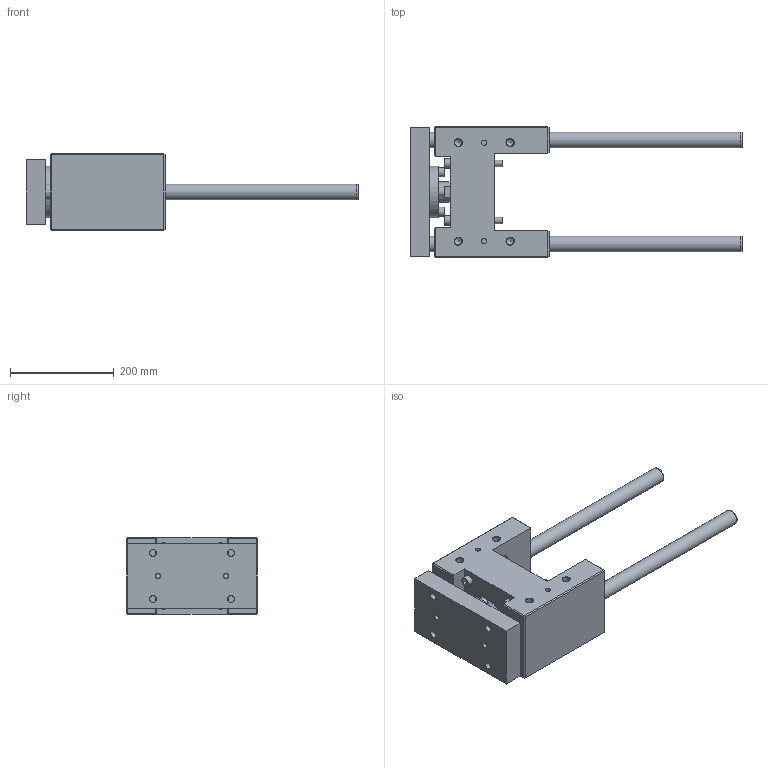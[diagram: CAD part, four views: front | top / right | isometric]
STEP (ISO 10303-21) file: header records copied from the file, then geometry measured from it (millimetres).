
FILE_DESCRIPTION( ( 'STEP AP214' ), '1' );
FILE_NAME( 'U:/Etudes/Top Solid/BIBLIO 3D AVM/TOP/PNEUMATIQUE/GUIDAGES/Type 32 (en H)/R_Renforcée/320R6_30.step', '2005-05-27T08:41:33', ( ' ' ), ( ' ' ), 'XStep 1.0', ' ', ' ' );
FILE_SCHEMA( ( 'automotive_design' ) );
Length unit declared in the file: metre
Products named in the file (2): 1; 2
Bounding box: 640 x 252 x 148 mm (x, y, z)
Volume: 6798234.7 mm3; surface area: 577450.8 mm2
Topology: 2 solids, 7 shells, 238 faces, 524 edges, 339 vertices
Faces by surface type: plane 149, cylinder 68, cone 21
Full cylindrical faces by diameter (mm): 10 x4, 10.106 x4, 12 x16, 13 x12, 13.835 x8, 18 x8, 20 x4, 24.835 x1, 30 x4, 39 x1, 42 x1, 57 x1, 60 x2, 65 x1, 100 x1
Entity records: 7905 total; most frequent: CARTESIAN_POINT 1198, DIRECTION 996, ORIENTED_EDGE 784, EDGE_CURVE 392, EDGE_LOOP 390, AXIS2_PLACEMENT_3D 372, FACE_OUTER_BOUND 306, VERTEX_POINT 302
